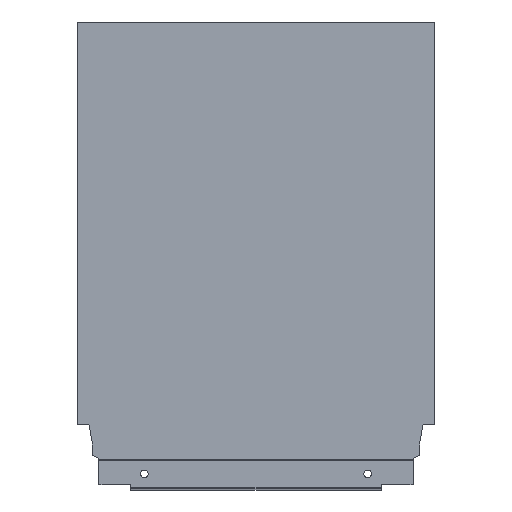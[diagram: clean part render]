
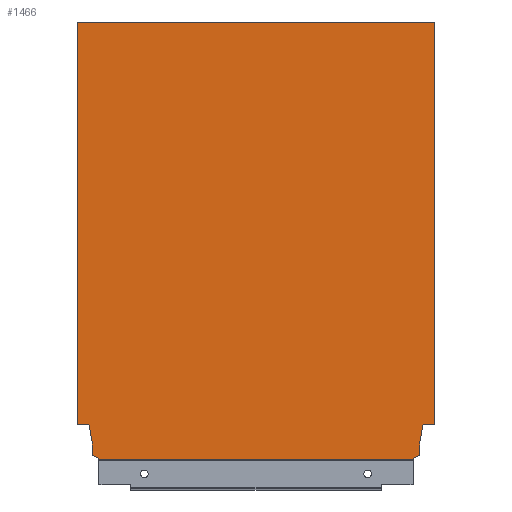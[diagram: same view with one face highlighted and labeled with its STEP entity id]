
A CAD part, top view. The second image highlights one B-rep face of the part: STEP entity #1466.
In plain terms, the highlighted planar face has unit normal (0, 0, 1).
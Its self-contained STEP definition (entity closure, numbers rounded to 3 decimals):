
#18 = LINE ( 'NONE', #1124, #64 ) ;
#35 = VECTOR ( 'NONE', #1071, 1000. ) ;
#39 = LINE ( 'NONE', #1073, #35 ) ;
#40 = LINE ( 'NONE', #1121, #41 ) ;
#41 = VECTOR ( 'NONE', #1120, 1000. ) ;
#44 = LINE ( 'NONE', #1115, #45 ) ;
#45 = VECTOR ( 'NONE', #1114, 1000. ) ;
#46 = LINE ( 'NONE', #1113, #47 ) ;
#47 = VECTOR ( 'NONE', #1111, 1000. ) ;
#48 = LINE ( 'NONE', #1110, #49 ) ;
#49 = VECTOR ( 'NONE', #1109, 1000. ) ;
#50 = LINE ( 'NONE', #1107, #51 ) ;
#51 = VECTOR ( 'NONE', #1106, 1000. ) ;
#52 = LINE ( 'NONE', #1104, #53 ) ;
#53 = VECTOR ( 'NONE', #1102, 1000. ) ;
#54 = LINE ( 'NONE', #1100, #55 ) ;
#55 = VECTOR ( 'NONE', #1099, 1000. ) ;
#56 = LINE ( 'NONE', #1097, #57 ) ;
#57 = VECTOR ( 'NONE', #1096, 1000. ) ;
#58 = LINE ( 'NONE', #1094, #59 ) ;
#59 = VECTOR ( 'NONE', #1093, 1000. ) ;
#62 = LINE ( 'NONE', #1088, #63 ) ;
#63 = VECTOR ( 'NONE', #1086, 1000. ) ;
#64 = VECTOR ( 'NONE', #1083, 1000. ) ;
#66 = LINE ( 'NONE', #1081, #67 ) ;
#67 = VECTOR ( 'NONE', #1079, 1000. ) ;
#73 = LINE ( 'NONE', #1067, #74 ) ;
#74 = VECTOR ( 'NONE', #1065, 1000. ) ;
#134 = FACE_OUTER_BOUND ( 'NONE', #687, .T. ) ;
#393 = EDGE_CURVE ( 'NONE', #1161, #1062, #40, .T. ) ;
#395 = EDGE_CURVE ( 'NONE', #1165, #1066, #44, .T. ) ;
#396 = EDGE_CURVE ( 'NONE', #1205, #1161, #46, .T. ) ;
#397 = EDGE_CURVE ( 'NONE', #1066, #1209, #48, .T. ) ;
#398 = EDGE_CURVE ( 'NONE', #1062, #1118, #50, .T. ) ;
#399 = EDGE_CURVE ( 'NONE', #1278, #1288, #52, .T. ) ;
#400 = EDGE_CURVE ( 'NONE', #1118, #1095, #54, .T. ) ;
#401 = EDGE_CURVE ( 'NONE', #1305, #1223, #56, .T. ) ;
#402 = EDGE_CURVE ( 'NONE', #1095, #1165, #58, .T. ) ;
#404 = EDGE_CURVE ( 'NONE', #1205, #1223, #62, .T. ) ;
#405 = EDGE_CURVE ( 'NONE', #1219, #1273, #18, .T. ) ;
#406 = EDGE_CURVE ( 'NONE', #1273, #1278, #66, .T. ) ;
#408 = EDGE_CURVE ( 'NONE', #1288, #1305, #39, .T. ) ;
#410 = EDGE_CURVE ( 'NONE', #1219, #1209, #73, .T. ) ;
#458 = AXIS2_PLACEMENT_3D ( 'NONE', #744, #737, #736 ) ;
#547 = ORIENTED_EDGE ( 'NONE', *, *, #396, .F. ) ;
#548 = ORIENTED_EDGE ( 'NONE', *, *, #393, .F. ) ;
#549 = ORIENTED_EDGE ( 'NONE', *, *, #398, .F. ) ;
#550 = ORIENTED_EDGE ( 'NONE', *, *, #400, .F. ) ;
#551 = ORIENTED_EDGE ( 'NONE', *, *, #402, .F. ) ;
#552 = ORIENTED_EDGE ( 'NONE', *, *, #395, .F. ) ;
#553 = ORIENTED_EDGE ( 'NONE', *, *, #397, .F. ) ;
#554 = ORIENTED_EDGE ( 'NONE', *, *, #410, .T. ) ;
#555 = ORIENTED_EDGE ( 'NONE', *, *, #405, .F. ) ;
#556 = ORIENTED_EDGE ( 'NONE', *, *, #406, .F. ) ;
#557 = ORIENTED_EDGE ( 'NONE', *, *, #399, .F. ) ;
#558 = ORIENTED_EDGE ( 'NONE', *, *, #408, .F. ) ;
#559 = ORIENTED_EDGE ( 'NONE', *, *, #401, .F. ) ;
#560 = ORIENTED_EDGE ( 'NONE', *, *, #404, .T. ) ;
#687 = EDGE_LOOP ( 'NONE', ( #560, #559, #558, #557, #556, #555, #554, #553, #552, #551, #550, #549, #548, #547 ) ) ;
#736 = DIRECTION ( 'NONE',  ( 1., 0., 0. ) ) ;
#737 = DIRECTION ( 'NONE',  ( 0., 0., 1. ) ) ;
#744 = CARTESIAN_POINT ( 'NONE',  ( -213., 0., 8. ) ) ;
#747 = PLANE ( 'NONE',  #458 ) ;
#956 = CARTESIAN_POINT ( 'NONE',  ( -205.94, 21.2, 8. ) ) ;
#960 = CARTESIAN_POINT ( 'NONE',  ( -204.1, 10.765, 8. ) ) ;
#962 = CARTESIAN_POINT ( 'NONE',  ( -204.1, 2.64, 8. ) ) ;
#964 = CARTESIAN_POINT ( 'NONE',  ( -199.996, 1.146, 8. ) ) ;
#975 = CARTESIAN_POINT ( 'NONE',  ( -213., 21.2, 8. ) ) ;
#976 = CARTESIAN_POINT ( 'NONE',  ( -199.996, 0., 8. ) ) ;
#979 = CARTESIAN_POINT ( 'NONE',  ( -13.004, 0., 8. ) ) ;
#980 = CARTESIAN_POINT ( 'NONE',  ( -213., 260.7, 8. ) ) ;
#998 = CARTESIAN_POINT ( 'NONE',  ( -8.9, 2.64, 8. ) ) ;
#999 = CARTESIAN_POINT ( 'NONE',  ( 0., 260.7, 8. ) ) ;
#1016 = CARTESIAN_POINT ( 'NONE',  ( -7.06, 21.2, 8. ) ) ;
#1028 = CARTESIAN_POINT ( 'NONE',  ( -8.9, 10.765, 8. ) ) ;
#1041 = CARTESIAN_POINT ( 'NONE',  ( -13.004, 1.146, 8. ) ) ;
#1045 = CARTESIAN_POINT ( 'NONE',  ( 0., 21.2, 8. ) ) ;
#1062 = VERTEX_POINT ( 'NONE', #1045 ) ;
#1065 = DIRECTION ( 'NONE',  ( 1., 0., 0. ) ) ;
#1066 = VERTEX_POINT ( 'NONE', #1041 ) ;
#1067 = CARTESIAN_POINT ( 'NONE',  ( -213., 0., 8. ) ) ;
#1071 = DIRECTION ( 'NONE',  ( -0.174, 0.985, 0. ) ) ;
#1073 = CARTESIAN_POINT ( 'NONE',  ( -205.94, 21.2, 8. ) ) ;
#1079 = DIRECTION ( 'NONE',  ( -0.94, 0.342, 0. ) ) ;
#1081 = CARTESIAN_POINT ( 'NONE',  ( -204.1, 2.64, 8. ) ) ;
#1083 = DIRECTION ( 'NONE',  ( 0., 1., 0. ) ) ;
#1086 = DIRECTION ( 'NONE',  ( 0., -1., 0. ) ) ;
#1088 = CARTESIAN_POINT ( 'NONE',  ( -213., 0., 8. ) ) ;
#1093 = DIRECTION ( 'NONE',  ( 0., -1., 0. ) ) ;
#1094 = CARTESIAN_POINT ( 'NONE',  ( -8.9, 10.765, 8. ) ) ;
#1095 = VERTEX_POINT ( 'NONE', #1028 ) ;
#1096 = DIRECTION ( 'NONE',  ( -1., 0., 0. ) ) ;
#1097 = CARTESIAN_POINT ( 'NONE',  ( -218., 21.2, 8. ) ) ;
#1099 = DIRECTION ( 'NONE',  ( -0.174, -0.985, 0. ) ) ;
#1100 = CARTESIAN_POINT ( 'NONE',  ( -7.06, 21.2, 8. ) ) ;
#1102 = DIRECTION ( 'NONE',  ( 0., 1., 0. ) ) ;
#1104 = CARTESIAN_POINT ( 'NONE',  ( -204.1, 10.765, 8. ) ) ;
#1106 = DIRECTION ( 'NONE',  ( -1., 0., 0. ) ) ;
#1107 = CARTESIAN_POINT ( 'NONE',  ( 0., 21.2, 8. ) ) ;
#1109 = DIRECTION ( 'NONE',  ( 0., -1., 0. ) ) ;
#1110 = CARTESIAN_POINT ( 'NONE',  ( -13.004, 1.146, 8. ) ) ;
#1111 = DIRECTION ( 'NONE',  ( 1., 0., 0. ) ) ;
#1113 = CARTESIAN_POINT ( 'NONE',  ( -213., 260.7, 8. ) ) ;
#1114 = DIRECTION ( 'NONE',  ( -0.94, -0.342, 0. ) ) ;
#1115 = CARTESIAN_POINT ( 'NONE',  ( -8.9, 2.64, 8. ) ) ;
#1118 = VERTEX_POINT ( 'NONE', #1016 ) ;
#1120 = DIRECTION ( 'NONE',  ( 0., -1., 0. ) ) ;
#1121 = CARTESIAN_POINT ( 'NONE',  ( 0., 0., 8. ) ) ;
#1124 = CARTESIAN_POINT ( 'NONE',  ( -199.996, 1.146, 8. ) ) ;
#1161 = VERTEX_POINT ( 'NONE', #999 ) ;
#1165 = VERTEX_POINT ( 'NONE', #998 ) ;
#1205 = VERTEX_POINT ( 'NONE', #980 ) ;
#1209 = VERTEX_POINT ( 'NONE', #979 ) ;
#1219 = VERTEX_POINT ( 'NONE', #976 ) ;
#1223 = VERTEX_POINT ( 'NONE', #975 ) ;
#1273 = VERTEX_POINT ( 'NONE', #964 ) ;
#1278 = VERTEX_POINT ( 'NONE', #962 ) ;
#1288 = VERTEX_POINT ( 'NONE', #960 ) ;
#1305 = VERTEX_POINT ( 'NONE', #956 ) ;
#1466 = ADVANCED_FACE ( 'NONE', ( #134 ), #747, .T. ) ;
